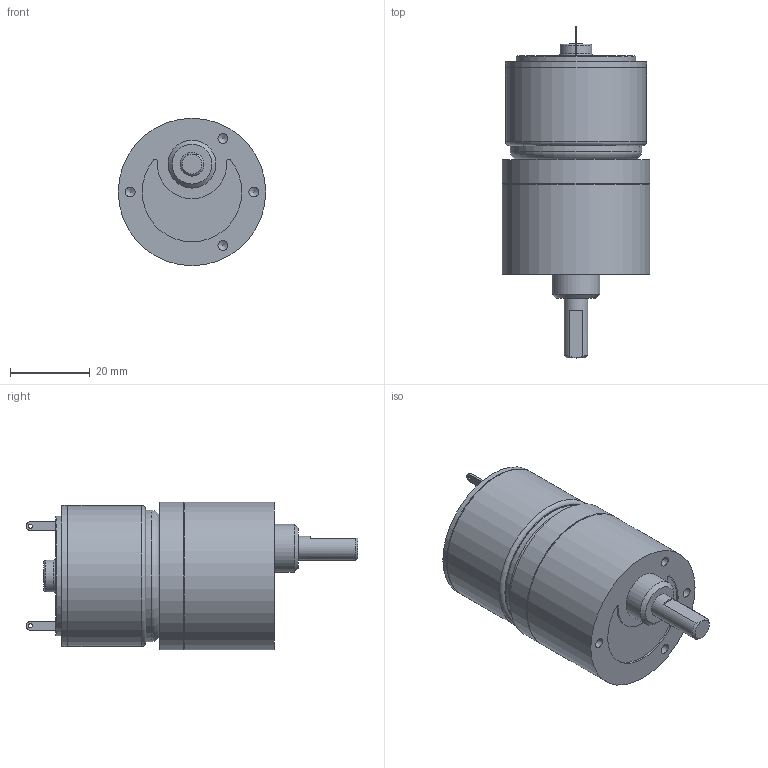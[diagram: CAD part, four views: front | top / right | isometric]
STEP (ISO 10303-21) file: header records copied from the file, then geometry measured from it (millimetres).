
FILE_DESCRIPTION((''),'2;1');
FILE_NAME('C:\Documents and Settings\SSEGAWA\デスクトップ\TP-3526G-HM-4.STP','2013-07-09T17:32:34',('SSEGAWA'),(''),'Autodesk Inventor 2010','Autodesk Inventor 2010','');
FILE_SCHEMA(('CONFIG_CONTROL_DESIGN'));
Length unit declared in the file: millimetre
Products named in the file (3): tp_3526g_hm_4; hm_4; tp_3526g
Assembly tree (2 placements, depth 2):
  tp_3526g_hm_4
    hm_4
    tp_3526g
Bounding box: 37 x 83.3 x 37 mm (x, y, z)
Volume: 56777 mm3; surface area: 11197.6 mm2
Topology: 2 solids, 2 shells, 75 faces, 157 edges, 103 vertices
Faces by surface type: plane 29, cylinder 22, bspline 17, torus 4, cone 3
Full cylindrical faces by diameter (mm): 2 x1, 2.4 x1, 5 x2, 6 x1, 8 x1, 10 x1, 12 x1, 30 x1, 33 x1, 35 x1, 35.4 x2, 36.6 x1, 37 x2
Entity records: 2055 total; most frequent: CARTESIAN_POINT 639, DIRECTION 295, ORIENTED_EDGE 200, EDGE_LOOP 135, AXIS2_PLACEMENT_3D 134, EDGE_CURVE 100, VERTEX_POINT 85, FACE_OUTER_BOUND 75
